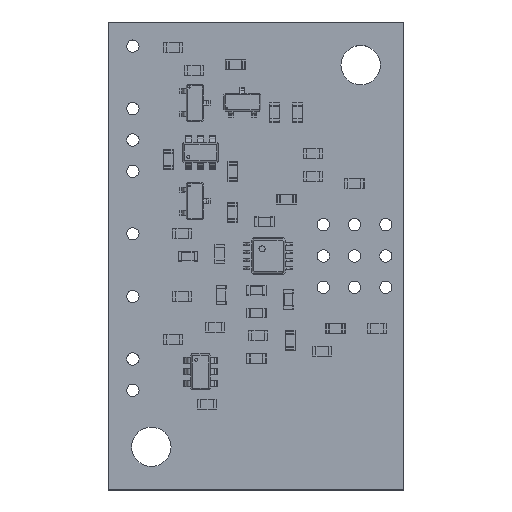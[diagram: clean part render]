
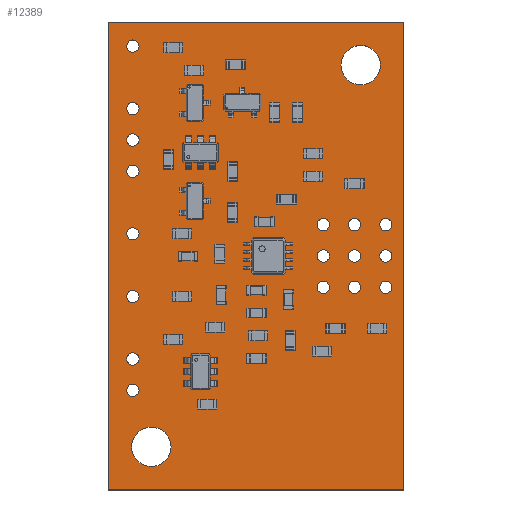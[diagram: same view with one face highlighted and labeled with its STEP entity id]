
A CAD part, top view. The second image highlights one B-rep face of the part: STEP entity #12389.
In plain terms, the highlighted planar face has unit normal (0, 0, 1).
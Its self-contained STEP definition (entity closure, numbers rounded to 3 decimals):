
#12068 = VERTEX_POINT('',#12069);
#12069 = CARTESIAN_POINT('',(24.,-50.,1.51));
#12075 = EDGE_CURVE('',#12068,#12076,#12078,.T.);
#12076 = VERTEX_POINT('',#12077);
#12077 = CARTESIAN_POINT('',(0.,-50.,1.51));
#12078 = LINE('',#12079,#12080);
#12079 = CARTESIAN_POINT('',(24.,-50.,1.51));
#12080 = VECTOR('',#12081,1.);
#12081 = DIRECTION('',(-1.,0.,0.));
#12108 = VERTEX_POINT('',#12109);
#12109 = CARTESIAN_POINT('',(24.,-12.,1.51));
#12115 = EDGE_CURVE('',#12108,#12068,#12116,.T.);
#12116 = LINE('',#12117,#12118);
#12117 = CARTESIAN_POINT('',(24.,-12.,1.51));
#12118 = VECTOR('',#12119,1.);
#12119 = DIRECTION('',(0.,-1.,0.));
#12137 = EDGE_CURVE('',#12076,#12138,#12140,.T.);
#12138 = VERTEX_POINT('',#12139);
#12139 = CARTESIAN_POINT('',(0.,-12.,1.51));
#12140 = LINE('',#12141,#12142);
#12141 = CARTESIAN_POINT('',(0.,-50.,1.51));
#12142 = VECTOR('',#12143,1.);
#12143 = DIRECTION('',(0.,1.,0.));
#12389 = ADVANCED_FACE('',(#12390,#12401,#12412,#12423,#12434,#12445,
    #12456,#12467,#12478,#12489,#12500,#12511,#12522,#12533,#12544,
    #12555,#12566,#12577,#12588,#12599),#12610,.T.);
#12390 = FACE_BOUND('',#12391,.T.);
#12391 = EDGE_LOOP('',(#12392,#12393,#12394,#12400));
#12392 = ORIENTED_EDGE('',*,*,#12075,.F.);
#12393 = ORIENTED_EDGE('',*,*,#12115,.F.);
#12394 = ORIENTED_EDGE('',*,*,#12395,.F.);
#12395 = EDGE_CURVE('',#12138,#12108,#12396,.T.);
#12396 = LINE('',#12397,#12398);
#12397 = CARTESIAN_POINT('',(0.,-12.,1.51));
#12398 = VECTOR('',#12399,1.);
#12399 = DIRECTION('',(1.,0.,0.));
#12400 = ORIENTED_EDGE('',*,*,#12137,.F.);
#12401 = FACE_BOUND('',#12402,.T.);
#12402 = EDGE_LOOP('',(#12403));
#12403 = ORIENTED_EDGE('',*,*,#12404,.T.);
#12404 = EDGE_CURVE('',#12405,#12405,#12407,.T.);
#12405 = VERTEX_POINT('',#12406);
#12406 = CARTESIAN_POINT('',(3.5,-48.1,1.51));
#12407 = CIRCLE('',#12408,1.6);
#12408 = AXIS2_PLACEMENT_3D('',#12409,#12410,#12411);
#12409 = CARTESIAN_POINT('',(3.5,-46.5,1.51));
#12410 = DIRECTION('',(-0.,0.,-1.));
#12411 = DIRECTION('',(-0.,-1.,0.));
#12412 = FACE_BOUND('',#12413,.T.);
#12413 = EDGE_LOOP('',(#12414));
#12414 = ORIENTED_EDGE('',*,*,#12415,.T.);
#12415 = EDGE_CURVE('',#12416,#12416,#12418,.T.);
#12416 = VERTEX_POINT('',#12417);
#12417 = CARTESIAN_POINT('',(2.,-42.4,1.51));
#12418 = CIRCLE('',#12419,0.5);
#12419 = AXIS2_PLACEMENT_3D('',#12420,#12421,#12422);
#12420 = CARTESIAN_POINT('',(2.,-41.9,1.51));
#12421 = DIRECTION('',(-0.,0.,-1.));
#12422 = DIRECTION('',(-0.,-1.,0.));
#12423 = FACE_BOUND('',#12424,.T.);
#12424 = EDGE_LOOP('',(#12425));
#12425 = ORIENTED_EDGE('',*,*,#12426,.T.);
#12426 = EDGE_CURVE('',#12427,#12427,#12429,.T.);
#12427 = VERTEX_POINT('',#12428);
#12428 = CARTESIAN_POINT('',(2.,-39.86,1.51));
#12429 = CIRCLE('',#12430,0.5);
#12430 = AXIS2_PLACEMENT_3D('',#12431,#12432,#12433);
#12431 = CARTESIAN_POINT('',(2.,-39.36,1.51));
#12432 = DIRECTION('',(-0.,0.,-1.));
#12433 = DIRECTION('',(-0.,-1.,0.));
#12434 = FACE_BOUND('',#12435,.T.);
#12435 = EDGE_LOOP('',(#12436));
#12436 = ORIENTED_EDGE('',*,*,#12437,.T.);
#12437 = EDGE_CURVE('',#12438,#12438,#12440,.T.);
#12438 = VERTEX_POINT('',#12439);
#12439 = CARTESIAN_POINT('',(2.,-34.78,1.51));
#12440 = CIRCLE('',#12441,0.5);
#12441 = AXIS2_PLACEMENT_3D('',#12442,#12443,#12444);
#12442 = CARTESIAN_POINT('',(2.,-34.28,1.51));
#12443 = DIRECTION('',(-0.,0.,-1.));
#12444 = DIRECTION('',(-0.,-1.,0.));
#12445 = FACE_BOUND('',#12446,.T.);
#12446 = EDGE_LOOP('',(#12447));
#12447 = ORIENTED_EDGE('',*,*,#12448,.T.);
#12448 = EDGE_CURVE('',#12449,#12449,#12451,.T.);
#12449 = VERTEX_POINT('',#12450);
#12450 = CARTESIAN_POINT('',(17.46,-34.04,1.51));
#12451 = CIRCLE('',#12452,0.5);
#12452 = AXIS2_PLACEMENT_3D('',#12453,#12454,#12455);
#12453 = CARTESIAN_POINT('',(17.46,-33.54,1.51));
#12454 = DIRECTION('',(-0.,0.,-1.));
#12455 = DIRECTION('',(-0.,-1.,0.));
#12456 = FACE_BOUND('',#12457,.T.);
#12457 = EDGE_LOOP('',(#12458));
#12458 = ORIENTED_EDGE('',*,*,#12459,.T.);
#12459 = EDGE_CURVE('',#12460,#12460,#12462,.T.);
#12460 = VERTEX_POINT('',#12461);
#12461 = CARTESIAN_POINT('',(17.46,-31.5,1.51));
#12462 = CIRCLE('',#12463,0.5);
#12463 = AXIS2_PLACEMENT_3D('',#12464,#12465,#12466);
#12464 = CARTESIAN_POINT('',(17.46,-31.,1.51));
#12465 = DIRECTION('',(-0.,0.,-1.));
#12466 = DIRECTION('',(-0.,-1.,0.));
#12467 = FACE_BOUND('',#12468,.T.);
#12468 = EDGE_LOOP('',(#12469));
#12469 = ORIENTED_EDGE('',*,*,#12470,.T.);
#12470 = EDGE_CURVE('',#12471,#12471,#12473,.T.);
#12471 = VERTEX_POINT('',#12472);
#12472 = CARTESIAN_POINT('',(20.,-34.04,1.51));
#12473 = CIRCLE('',#12474,0.5);
#12474 = AXIS2_PLACEMENT_3D('',#12475,#12476,#12477);
#12475 = CARTESIAN_POINT('',(20.,-33.54,1.51));
#12476 = DIRECTION('',(-0.,0.,-1.));
#12477 = DIRECTION('',(-0.,-1.,0.));
#12478 = FACE_BOUND('',#12479,.T.);
#12479 = EDGE_LOOP('',(#12480));
#12480 = ORIENTED_EDGE('',*,*,#12481,.T.);
#12481 = EDGE_CURVE('',#12482,#12482,#12484,.T.);
#12482 = VERTEX_POINT('',#12483);
#12483 = CARTESIAN_POINT('',(20.,-31.5,1.51));
#12484 = CIRCLE('',#12485,0.5);
#12485 = AXIS2_PLACEMENT_3D('',#12486,#12487,#12488);
#12486 = CARTESIAN_POINT('',(20.,-31.,1.51));
#12487 = DIRECTION('',(-0.,0.,-1.));
#12488 = DIRECTION('',(-0.,-1.,0.));
#12489 = FACE_BOUND('',#12490,.T.);
#12490 = EDGE_LOOP('',(#12491));
#12491 = ORIENTED_EDGE('',*,*,#12492,.T.);
#12492 = EDGE_CURVE('',#12493,#12493,#12495,.T.);
#12493 = VERTEX_POINT('',#12494);
#12494 = CARTESIAN_POINT('',(22.54,-34.04,1.51));
#12495 = CIRCLE('',#12496,0.5);
#12496 = AXIS2_PLACEMENT_3D('',#12497,#12498,#12499);
#12497 = CARTESIAN_POINT('',(22.54,-33.54,1.51));
#12498 = DIRECTION('',(-0.,0.,-1.));
#12499 = DIRECTION('',(-0.,-1.,0.));
#12500 = FACE_BOUND('',#12501,.T.);
#12501 = EDGE_LOOP('',(#12502));
#12502 = ORIENTED_EDGE('',*,*,#12503,.T.);
#12503 = EDGE_CURVE('',#12504,#12504,#12506,.T.);
#12504 = VERTEX_POINT('',#12505);
#12505 = CARTESIAN_POINT('',(22.54,-31.5,1.51));
#12506 = CIRCLE('',#12507,0.5);
#12507 = AXIS2_PLACEMENT_3D('',#12508,#12509,#12510);
#12508 = CARTESIAN_POINT('',(22.54,-31.,1.51));
#12509 = DIRECTION('',(-0.,0.,-1.));
#12510 = DIRECTION('',(-0.,-1.,0.));
#12511 = FACE_BOUND('',#12512,.T.);
#12512 = EDGE_LOOP('',(#12513));
#12513 = ORIENTED_EDGE('',*,*,#12514,.T.);
#12514 = EDGE_CURVE('',#12515,#12515,#12517,.T.);
#12515 = VERTEX_POINT('',#12516);
#12516 = CARTESIAN_POINT('',(2.,-29.7,1.51));
#12517 = CIRCLE('',#12518,0.5);
#12518 = AXIS2_PLACEMENT_3D('',#12519,#12520,#12521);
#12519 = CARTESIAN_POINT('',(2.,-29.2,1.51));
#12520 = DIRECTION('',(-0.,0.,-1.));
#12521 = DIRECTION('',(-0.,-1.,0.));
#12522 = FACE_BOUND('',#12523,.T.);
#12523 = EDGE_LOOP('',(#12524));
#12524 = ORIENTED_EDGE('',*,*,#12525,.T.);
#12525 = EDGE_CURVE('',#12526,#12526,#12528,.T.);
#12526 = VERTEX_POINT('',#12527);
#12527 = CARTESIAN_POINT('',(2.,-24.62,1.51));
#12528 = CIRCLE('',#12529,0.5);
#12529 = AXIS2_PLACEMENT_3D('',#12530,#12531,#12532);
#12530 = CARTESIAN_POINT('',(2.,-24.12,1.51));
#12531 = DIRECTION('',(-0.,0.,-1.));
#12532 = DIRECTION('',(-0.,-1.,0.));
#12533 = FACE_BOUND('',#12534,.T.);
#12534 = EDGE_LOOP('',(#12535));
#12535 = ORIENTED_EDGE('',*,*,#12536,.T.);
#12536 = EDGE_CURVE('',#12537,#12537,#12539,.T.);
#12537 = VERTEX_POINT('',#12538);
#12538 = CARTESIAN_POINT('',(2.,-22.08,1.51));
#12539 = CIRCLE('',#12540,0.5);
#12540 = AXIS2_PLACEMENT_3D('',#12541,#12542,#12543);
#12541 = CARTESIAN_POINT('',(2.,-21.58,1.51));
#12542 = DIRECTION('',(-0.,0.,-1.));
#12543 = DIRECTION('',(-0.,-1.,0.));
#12544 = FACE_BOUND('',#12545,.T.);
#12545 = EDGE_LOOP('',(#12546));
#12546 = ORIENTED_EDGE('',*,*,#12547,.T.);
#12547 = EDGE_CURVE('',#12548,#12548,#12550,.T.);
#12548 = VERTEX_POINT('',#12549);
#12549 = CARTESIAN_POINT('',(2.,-19.54,1.51));
#12550 = CIRCLE('',#12551,0.5);
#12551 = AXIS2_PLACEMENT_3D('',#12552,#12553,#12554);
#12552 = CARTESIAN_POINT('',(2.,-19.04,1.51));
#12553 = DIRECTION('',(-0.,0.,-1.));
#12554 = DIRECTION('',(-0.,-1.,0.));
#12555 = FACE_BOUND('',#12556,.T.);
#12556 = EDGE_LOOP('',(#12557));
#12557 = ORIENTED_EDGE('',*,*,#12558,.T.);
#12558 = EDGE_CURVE('',#12559,#12559,#12561,.T.);
#12559 = VERTEX_POINT('',#12560);
#12560 = CARTESIAN_POINT('',(2.,-14.46,1.51));
#12561 = CIRCLE('',#12562,0.5);
#12562 = AXIS2_PLACEMENT_3D('',#12563,#12564,#12565);
#12563 = CARTESIAN_POINT('',(2.,-13.96,1.51));
#12564 = DIRECTION('',(-0.,0.,-1.));
#12565 = DIRECTION('',(-0.,-1.,0.));
#12566 = FACE_BOUND('',#12567,.T.);
#12567 = EDGE_LOOP('',(#12568));
#12568 = ORIENTED_EDGE('',*,*,#12569,.T.);
#12569 = EDGE_CURVE('',#12570,#12570,#12572,.T.);
#12570 = VERTEX_POINT('',#12571);
#12571 = CARTESIAN_POINT('',(17.46,-28.96,1.51));
#12572 = CIRCLE('',#12573,0.5);
#12573 = AXIS2_PLACEMENT_3D('',#12574,#12575,#12576);
#12574 = CARTESIAN_POINT('',(17.46,-28.46,1.51));
#12575 = DIRECTION('',(-0.,0.,-1.));
#12576 = DIRECTION('',(-0.,-1.,0.));
#12577 = FACE_BOUND('',#12578,.T.);
#12578 = EDGE_LOOP('',(#12579));
#12579 = ORIENTED_EDGE('',*,*,#12580,.T.);
#12580 = EDGE_CURVE('',#12581,#12581,#12583,.T.);
#12581 = VERTEX_POINT('',#12582);
#12582 = CARTESIAN_POINT('',(20.,-28.96,1.51));
#12583 = CIRCLE('',#12584,0.5);
#12584 = AXIS2_PLACEMENT_3D('',#12585,#12586,#12587);
#12585 = CARTESIAN_POINT('',(20.,-28.46,1.51));
#12586 = DIRECTION('',(-0.,0.,-1.));
#12587 = DIRECTION('',(-0.,-1.,0.));
#12588 = FACE_BOUND('',#12589,.T.);
#12589 = EDGE_LOOP('',(#12590));
#12590 = ORIENTED_EDGE('',*,*,#12591,.T.);
#12591 = EDGE_CURVE('',#12592,#12592,#12594,.T.);
#12592 = VERTEX_POINT('',#12593);
#12593 = CARTESIAN_POINT('',(22.54,-28.96,1.51));
#12594 = CIRCLE('',#12595,0.5);
#12595 = AXIS2_PLACEMENT_3D('',#12596,#12597,#12598);
#12596 = CARTESIAN_POINT('',(22.54,-28.46,1.51));
#12597 = DIRECTION('',(-0.,0.,-1.));
#12598 = DIRECTION('',(-0.,-1.,0.));
#12599 = FACE_BOUND('',#12600,.T.);
#12600 = EDGE_LOOP('',(#12601));
#12601 = ORIENTED_EDGE('',*,*,#12602,.T.);
#12602 = EDGE_CURVE('',#12603,#12603,#12605,.T.);
#12603 = VERTEX_POINT('',#12604);
#12604 = CARTESIAN_POINT('',(20.5,-17.1,1.51));
#12605 = CIRCLE('',#12606,1.6);
#12606 = AXIS2_PLACEMENT_3D('',#12607,#12608,#12609);
#12607 = CARTESIAN_POINT('',(20.5,-15.5,1.51));
#12608 = DIRECTION('',(-0.,0.,-1.));
#12609 = DIRECTION('',(-0.,-1.,0.));
#12610 = PLANE('',#12611);
#12611 = AXIS2_PLACEMENT_3D('',#12612,#12613,#12614);
#12612 = CARTESIAN_POINT('',(0.,0.,1.51));
#12613 = DIRECTION('',(0.,0.,1.));
#12614 = DIRECTION('',(1.,0.,-0.));
